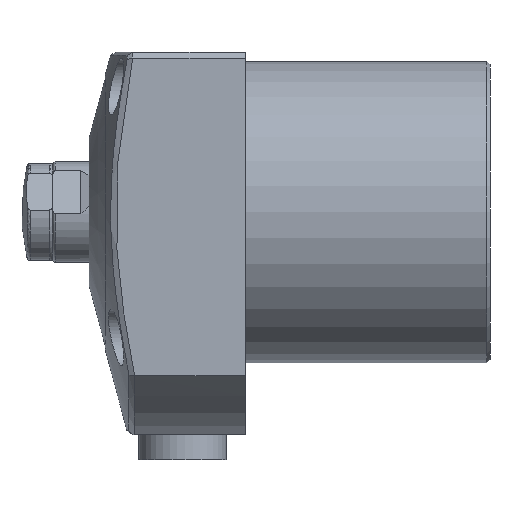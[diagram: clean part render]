
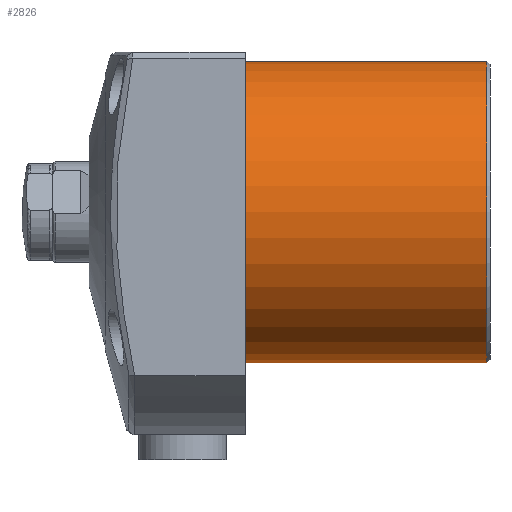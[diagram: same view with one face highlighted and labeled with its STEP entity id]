
A CAD part, left-side view. The second image highlights one B-rep face of the part: STEP entity #2826.
In plain terms, the highlighted cylindrical face has radius 24 mm (diameter 48 mm), a full revolution.
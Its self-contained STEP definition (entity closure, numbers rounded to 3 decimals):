
#2826=ADVANCED_FACE('',(#3250,#3251),#3129,.T.);
#3129=CYLINDRICAL_SURFACE('',#6856,24.);
#3250=FACE_BOUND('',#3546,.T.);
#3251=FACE_BOUND('',#3547,.T.);
#3546=EDGE_LOOP('',(#4103));
#3547=EDGE_LOOP('',(#4104));
#4103=ORIENTED_EDGE('',*,*,#5976,.F.);
#4104=ORIENTED_EDGE('',*,*,#5977,.T.);
#5451=VERTEX_POINT('',#9218);
#5452=VERTEX_POINT('',#9220);
#5976=EDGE_CURVE('',#5451,#5451,#6642,.T.);
#5977=EDGE_CURVE('',#5452,#5452,#6643,.T.);
#6642=CIRCLE('',#6854,24.);
#6643=CIRCLE('',#6855,24.);
#6854=AXIS2_PLACEMENT_3D('',#9217,#7420,#7421);
#6855=AXIS2_PLACEMENT_3D('',#9219,#7422,#7423);
#6856=AXIS2_PLACEMENT_3D('',#9221,#7424,#7425);
#7420=DIRECTION('',(0.,-1.,0.));
#7421=DIRECTION('',(0.,0.,-1.));
#7422=DIRECTION('',(0.,-1.,0.));
#7423=DIRECTION('',(0.,0.,-1.));
#7424=DIRECTION('',(0.,-1.,0.));
#7425=DIRECTION('',(0.,0.,1.));
#9217=CARTESIAN_POINT('',(41.346,-55.021,72.606));
#9218=CARTESIAN_POINT('',(41.346,-55.021,48.606));
#9219=CARTESIAN_POINT('',(41.346,-16.521,72.606));
#9220=CARTESIAN_POINT('',(41.346,-16.521,48.606));
#9221=CARTESIAN_POINT('',(41.346,-59.521,72.606));
